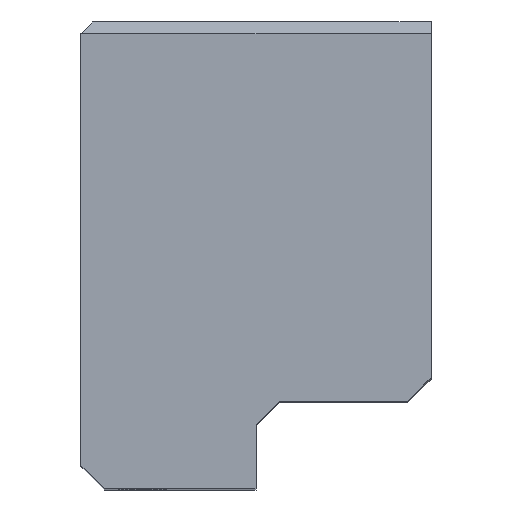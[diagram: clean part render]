
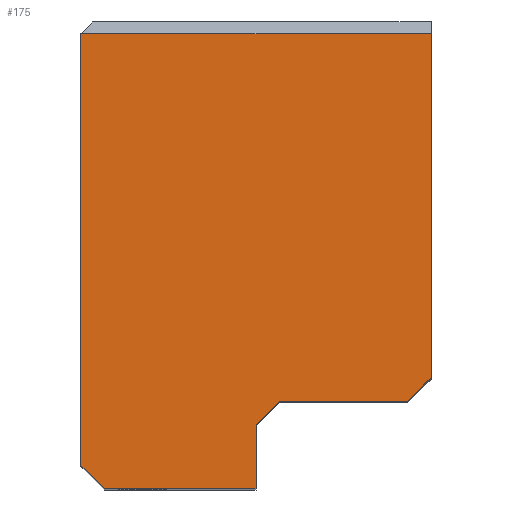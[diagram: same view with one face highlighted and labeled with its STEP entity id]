
A CAD part, top view. The second image highlights one B-rep face of the part: STEP entity #175.
In plain terms, the highlighted planar face has unit normal (0, 0, 1).
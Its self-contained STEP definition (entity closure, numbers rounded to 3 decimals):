
#7 = EDGE_CURVE ( 'NONE', #654, #1330, #218, .T. ) ;
#19 = CARTESIAN_POINT ( 'NONE',  ( -15., 40., 30.75 ) ) ;
#34 = DIRECTION ( 'NONE',  ( 0.707, -0.707, 0. ) ) ;
#37 = CARTESIAN_POINT ( 'NONE',  ( -15., 2., 30.75 ) ) ;
#46 = CARTESIAN_POINT ( 'NONE',  ( 2., 7.5, 30.75 ) ) ;
#75 = ORIENTED_EDGE ( 'NONE', *, *, #1402, .T. ) ;
#77 = VERTEX_POINT ( 'NONE', #425 ) ;
#96 = CARTESIAN_POINT ( 'NONE',  ( 0., 0., 30.75 ) ) ;
#108 = FACE_OUTER_BOUND ( 'NONE', #263, .T. ) ;
#133 = ORIENTED_EDGE ( 'NONE', *, *, #1054, .T. ) ;
#175 = ADVANCED_FACE ( 'NONE', ( #108 ), #497, .F. ) ;
#180 = LINE ( 'NONE', #518, #1175 ) ;
#202 = DIRECTION ( 'NONE',  ( -1., 0., 0. ) ) ;
#214 = LINE ( 'NONE', #821, #1477 ) ;
#218 = LINE ( 'NONE', #1497, #1479 ) ;
#243 = ORIENTED_EDGE ( 'NONE', *, *, #1533, .F. ) ;
#263 = EDGE_LOOP ( 'NONE', ( #243, #1413, #75, #613, #890, #886, #133, #984, #1197 ) ) ;
#269 = LINE ( 'NONE', #1123, #1454 ) ;
#283 = EDGE_CURVE ( 'NONE', #417, #1330, #1480, .T. ) ;
#332 = CARTESIAN_POINT ( 'NONE',  ( 15., 7.5, 30.75 ) ) ;
#339 = DIRECTION ( 'NONE',  ( 0., -1., 0. ) ) ;
#356 = VECTOR ( 'NONE', #1331, 1000. ) ;
#361 = VERTEX_POINT ( 'NONE', #810 ) ;
#378 = VERTEX_POINT ( 'NONE', #1201 ) ;
#417 = VERTEX_POINT ( 'NONE', #770 ) ;
#424 = EDGE_CURVE ( 'NONE', #908, #654, #180, .T. ) ;
#425 = CARTESIAN_POINT ( 'NONE',  ( 13., 7.5, 30.75 ) ) ;
#437 = DIRECTION ( 'NONE',  ( 1., 0., 0. ) ) ;
#461 = VERTEX_POINT ( 'NONE', #46 ) ;
#478 = CARTESIAN_POINT ( 'NONE',  ( -15., 40., 30.75 ) ) ;
#497 = PLANE ( 'NONE',  #961 ) ;
#518 = CARTESIAN_POINT ( 'NONE',  ( -15., 2., 30.75 ) ) ;
#609 = EDGE_CURVE ( 'NONE', #77, #461, #1426, .T. ) ;
#613 = ORIENTED_EDGE ( 'NONE', *, *, #424, .T. ) ;
#630 = CARTESIAN_POINT ( 'NONE',  ( 9.75, 15.25, 30.75 ) ) ;
#648 = VECTOR ( 'NONE', #202, 1000. ) ;
#654 = VERTEX_POINT ( 'NONE', #1431 ) ;
#741 = CARTESIAN_POINT ( 'NONE',  ( -15., 39., 30.75 ) ) ;
#751 = VERTEX_POINT ( 'NONE', #1174 ) ;
#770 = CARTESIAN_POINT ( 'NONE',  ( 0., 5.5, 30.75 ) ) ;
#782 = DIRECTION ( 'NONE',  ( -1., 0., 0. ) ) ;
#798 = VECTOR ( 'NONE', #339, 1000. ) ;
#806 = LINE ( 'NONE', #478, #356 ) ;
#810 = CARTESIAN_POINT ( 'NONE',  ( 15., 39., 30.75 ) ) ;
#821 = CARTESIAN_POINT ( 'NONE',  ( 13., 7.5, 30.75 ) ) ;
#846 = DIRECTION ( 'NONE',  ( 0.707, 0.707, 0. ) ) ;
#852 = EDGE_CURVE ( 'NONE', #361, #751, #924, .T. ) ;
#867 = DIRECTION ( 'NONE',  ( 0.707, 0.707, 0. ) ) ;
#873 = DIRECTION ( 'NONE',  ( 0., 0., -1. ) ) ;
#886 = ORIENTED_EDGE ( 'NONE', *, *, #283, .F. ) ;
#890 = ORIENTED_EDGE ( 'NONE', *, *, #7, .T. ) ;
#908 = VERTEX_POINT ( 'NONE', #37 ) ;
#924 = LINE ( 'NONE', #741, #1133 ) ;
#940 = LINE ( 'NONE', #630, #981 ) ;
#961 = AXIS2_PLACEMENT_3D ( 'NONE', #19, #873, #782 ) ;
#981 = VECTOR ( 'NONE', #867, 1000. ) ;
#984 = ORIENTED_EDGE ( 'NONE', *, *, #609, .F. ) ;
#1054 = EDGE_CURVE ( 'NONE', #417, #461, #940, .T. ) ;
#1099 = DIRECTION ( 'NONE',  ( 0., -1., 0. ) ) ;
#1104 = EDGE_CURVE ( 'NONE', #77, #378, #214, .T. ) ;
#1123 = CARTESIAN_POINT ( 'NONE',  ( 15., 40., 30.75 ) ) ;
#1133 = VECTOR ( 'NONE', #1528, 1000. ) ;
#1174 = CARTESIAN_POINT ( 'NONE',  ( -15., 39., 30.75 ) ) ;
#1175 = VECTOR ( 'NONE', #34, 1000. ) ;
#1197 = ORIENTED_EDGE ( 'NONE', *, *, #1104, .T. ) ;
#1201 = CARTESIAN_POINT ( 'NONE',  ( 15., 9.5, 30.75 ) ) ;
#1330 = VERTEX_POINT ( 'NONE', #96 ) ;
#1331 = DIRECTION ( 'NONE',  ( 0., -1., 0. ) ) ;
#1402 = EDGE_CURVE ( 'NONE', #751, #908, #806, .T. ) ;
#1413 = ORIENTED_EDGE ( 'NONE', *, *, #852, .T. ) ;
#1426 = LINE ( 'NONE', #332, #648 ) ;
#1431 = CARTESIAN_POINT ( 'NONE',  ( -13., 0., 30.75 ) ) ;
#1454 = VECTOR ( 'NONE', #1099, 1000. ) ;
#1477 = VECTOR ( 'NONE', #846, 1000. ) ;
#1479 = VECTOR ( 'NONE', #437, 1000. ) ;
#1480 = LINE ( 'NONE', #1530, #798 ) ;
#1497 = CARTESIAN_POINT ( 'NONE',  ( -15., 0., 30.75 ) ) ;
#1528 = DIRECTION ( 'NONE',  ( -1., 0., 0. ) ) ;
#1530 = CARTESIAN_POINT ( 'NONE',  ( 0., 0., 30.75 ) ) ;
#1533 = EDGE_CURVE ( 'NONE', #361, #378, #269, .T. ) ;
